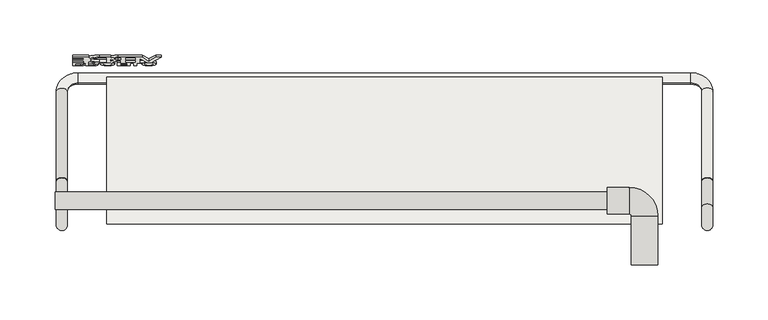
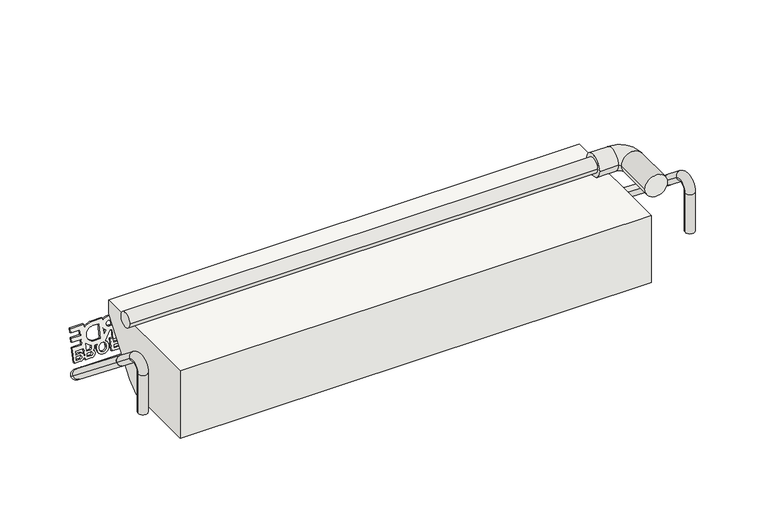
"""IFC4 building model written with IfcOpenShell, lengths in millimetres: covering geometry, panel VP Modulo prova ultima texture : panel VP Modulo prova ultima texture."""

from ifc_helpers import new_model, si_unit, point, frame, frame_2d, origin, place, context, project, spatial, polyline, circle_curve, ellipse_curve, trimmed, segment, composite_curve, outline, extrude, source, transform, mapped, element, save
from ifc_brep_helpers import plane_surface, cylinder_surface, revolved_surface, advanced_brep


def covering_8a4f5f23(model_context):
    return source(origin(), model_context, "Body", "SolidModel", [
        extrude(outline(composite_curve([segment(polyline([(34.7220757, 1e-07), (58.7996812, 1e-07)]), True, "CONTINUOUS"), segment(trimmed(circle_curve(frame_2d((65.0642789, 0.6025231)), 6.293506), [point((58.7996812, 1e-07))], [point((63.4156114, 6.6762463))], False, "CARTESIAN"), True, "CONTINUOUS"), segment(trimmed(circle_curve(frame_2d((65.6666707, 0.6823429)), 6.4026671), [point((63.4156114, 6.6762463))], [point((68.2653756, -5.1692277))], False, "CARTESIAN"), True, "CONTINUOUS"), segment(trimmed(circle_curve(frame_2d((65.2033193, 0.2002614)), 6.1812298), [point((68.2653756, -5.1692277))], [point((64.2093266, -5.9005239))], False, "CARTESIAN"), True, "CONTINUOUS"), segment(polyline([(64.2093266, -5.9005239), (66.3168223, -11.0476864), (75.8016954, -7.1641235), (76.862281, -9.7544045), (66.3136897, -14.0735049), (67.4636632, -16.8820993), (78.0122546, -12.5629989), (79.0728401, -15.1532799), (68.5242488, -19.4723803), (70.7348079, -24.8712557), (61.6931831, -28.5733316), (62.6270622, -30.8541559), (73.074875, -33.0832315)]), True, "CONTINUOUS"), segment(trimmed(circle_curve(frame_2d((79.2445531, -34.0648778)), 6.247284), [point((73.074875, -33.0832315))], [point((77.6263487, -28.0308102))], False, "CARTESIAN"), True, "CONTINUOUS"), segment(trimmed(circle_curve(frame_2d((79.877408, -34.0247135)), 6.4026671), [point((77.6263487, -28.0308102))], [point((82.4790998, -39.8749568))], False, "CARTESIAN"), True, "CONTINUOUS"), segment(trimmed(circle_curve(frame_2d((79.4067188, -34.4842118)), 6.2048092), [point((82.4790998, -39.8749568))], [point((77.0112197, -40.2079554))], False, "CARTESIAN"), True, "CONTINUOUS"), segment(polyline([(77.0112197, -40.2079554), (78.1993614, -43.1097684)]), True, "CONTINUOUS"), segment(trimmed(circle_curve(frame_2d((66.5130174, -47.6019204)), 12.5199867), [point((78.1993614, -43.1097684))], [point((78.4709528, -43.8927628))], False, "CARTESIAN"), True, "CONTINUOUS"), segment(polyline([(78.4709528, -43.8927628), (79.5384706, -43.4513167)]), True, "CONTINUOUS"), segment(trimmed(circle_curve(frame_2d((81.1236563, -46.5289178)), 3.4618554), [point((79.5384706, -43.4513167))], [point((83.2640668, -43.8080565))], False, "CARTESIAN"), True, "CONTINUOUS"), segment(trimmed(circle_curve(frame_2d((86.9930546, -44.5041075)), 3.7933939), [point((83.2640668, -43.8080565))], [point((90.5427255, -43.1663204))], False, "CARTESIAN"), True, "CONTINUOUS"), segment(polyline([(90.5427255, -43.1663204), (93.2835774, -49.8603364), (82.7349861, -54.1794367), (86.0955188, -62.3869066), (89.2825225, -61.0819941), (87.602256, -56.9782588)]), True, "CONTINUOUS"), segment(trimmed(circle_curve(frame_2d((91.2496312, -55.4763574)), 3.9444966), [point((87.602256, -56.9782588))], [point((87.6394877, -53.887044))], False, "CARTESIAN"), True, "CONTINUOUS"), segment(trimmed(circle_curve(frame_2d((91.0795376, -55.4029608)), 3.7592483), [point((87.6394877, -53.887044))], [point((89.8068057, -51.8657159))], False, "CARTESIAN"), True, "CONTINUOUS"), segment(trimmed(circle_curve(frame_2d((91.3826275, -55.3791794)), 3.8506675), [point((89.8068057, -51.8657159))], [point((94.9638437, -53.9640712))], False, "CARTESIAN"), True, "CONTINUOUS"), segment(polyline([(94.9638437, -53.9640712), (97.7046957, -60.6580873), (83.1186527, -66.6303144), (79.3291228, -57.3750995), (74.3249248, -59.4240587), (78.1144547, -68.6792736), (74.077003, -70.3324004), (70.2874731, -61.0771855), (65.283275, -63.1261447), (69.0728049, -72.3813597), (65.0353533, -74.0344865), (59.5536495, -60.6464545), (63.573194, -59.0006598)]), True, "CONTINUOUS"), segment(trimmed(circle_curve(frame_2d((67.4307018, -47.253167)), 12.364625), [point((63.573194, -59.0006598))], [point((55.9786182, -51.9151121))], False, "CARTESIAN"), True, "CONTINUOUS"), segment(polyline([(55.9786182, -51.9151121), (51.9745896, -42.1360244), (54.8949193, -40.940301)]), True, "CONTINUOUS"), segment(trimmed(circle_curve(frame_2d((56.8950264, -33.2916253)), 7.9058629), [point((54.8949193, -40.940301))], [point((49.6285766, -36.4063284))], False, "CARTESIAN"), True, "CONTINUOUS"), segment(polyline([(49.6285766, -36.4063284), (41.3068641, -16.0821087), (53.1289126, -4.45118), (36.5446028, -4.4511801), (34.7220757, 1e-07)]), True, "CONTINUOUS")], self_intersect=False), holes=[composite_curve([segment(polyline([(91.3698144, -60.2273564), (94.5568181, -58.9224439), (93.0429626, -55.2251362)]), True, "CONTINUOUS"), segment(trimmed(circle_curve(frame_2d((91.4494608, -55.8775924)), 1.7219023), [point((93.0429626, -55.2251362))], [point((89.8559589, -56.5300487))], True, "CARTESIAN"), True, "CONTINUOUS"), segment(polyline([(89.8559589, -56.5300487), (91.3698144, -60.2273564)]), True, "CONTINUOUS")], self_intersect=False), composite_curve([segment(polyline([(77.6536647, -53.2354382), (84.8614042, -50.2842432), (83.4804082, -46.9114198)]), True, "CONTINUOUS"), segment(trimmed(circle_curve(frame_2d((82.0055188, -47.9798171)), 1.8212006), [point((83.4804082, -46.9114198))], [point((81.4459172, -46.2467223))], True, "CARTESIAN"), True, "CONTINUOUS"), segment(polyline([(81.4459172, -46.2467223), (79.005401, -46.7813864)]), True, "CONTINUOUS"), segment(trimmed(circle_curve(frame_2d((66.800009, -47.5936694)), 12.2323913), [point((79.005401, -46.7813864))], [point((77.6536647, -53.2354382))], False, "CARTESIAN"), True, "CONTINUOUS")], self_intersect=False), composite_curve([segment(polyline([(80.0469884, -37.8463889), (81.818283, -37.1211357)]), True, "CONTINUOUS"), segment(trimmed(circle_curve(frame_2d((80.3714599, -33.822414)), 3.6020635), [point((81.818283, -37.1211357))], [point((79.0874461, -30.4569764))], True, "CARTESIAN"), True, "CONTINUOUS"), segment(polyline([(79.0874461, -30.4569764), (77.318043, -31.1814551)]), True, "CONTINUOUS"), segment(trimmed(circle_curve(frame_2d((78.7640582, -34.4805345)), 3.6020668), [point((77.318043, -31.1814551))], [point((80.0469884, -37.8463889))], True, "CARTESIAN"), True, "CONTINUOUS")], self_intersect=False), composite_curve([segment(polyline([(64.8767089, 4.25008), (63.1073057, 3.5256013)]), True, "CONTINUOUS"), segment(trimmed(circle_curve(frame_2d((64.5533209, 0.2265218)), 3.6020668), [point((63.1073057, 3.5256013))], [point((65.8362512, -3.1393324))], True, "CARTESIAN"), True, "CONTINUOUS"), segment(polyline([(65.8362512, -3.1393324), (67.6075457, -2.4140793)]), True, "CONTINUOUS"), segment(trimmed(circle_curve(frame_2d((66.1607226, 0.8846424)), 3.6020635), [point((67.6075457, -2.4140793))], [point((64.8767089, 4.25008))], True, "CARTESIAN"), True, "CONTINUOUS")], self_intersect=False), composite_curve([segment(polyline([(49.3862171, -14.3776131), (62.966359, -8.8172502), (61.7031824, -5.7321785), (62.543491, -5.3881158)]), True, "CONTINUOUS"), segment(trimmed(circle_curve(frame_2d((65.2914898, 0.489271)), 6.4880792), [point((62.543491, -5.3881158))], [point((60.2929855, -3.647168))], False, "CARTESIAN"), True, "CONTINUOUS"), segment(polyline([(60.2929855, -3.647168), (49.3862171, -14.3776131)]), True, "CONTINUOUS")], self_intersect=False), polyline([(47.598802, -19.9351411), (50.9593347, -28.1426109), (55.9635327, -26.0936517), (52.603, -17.8861818), (47.598802, -19.9351411)]), polyline([(60.0009844, -24.4405249), (65.0051824, -22.3915657), (61.6446497, -14.1840958), (56.6404517, -16.233055), (60.0009844, -24.4405249)]), composite_curve([segment(polyline([(52.6514048, -32.2754702), (53.692025, -34.8169896)]), True, "CONTINUOUS"), segment(trimmed(circle_curve(frame_2d((56.2265541, -33.8697215)), 2.7057631), [point((53.692025, -34.8169896))], [point((58.6823172, -32.7337722))], True, "CARTESIAN"), True, "CONTINUOUS"), segment(polyline([(58.6823172, -32.7337722), (57.6557066, -30.2264686), (52.6514048, -32.2754702)]), True, "CONTINUOUS")], self_intersect=False), composite_curve([segment(polyline([(62.001845, -38.030384), (66.4600603, -36.2049764), (63.0935891, -35.4866796)]), True, "CONTINUOUS"), segment(trimmed(circle_curve(frame_2d((53.8245829, -33.0146099)), 9.5929977), [point((63.0935891, -35.4866796))], [point((62.001845, -38.030384))], False, "CARTESIAN"), True, "CONTINUOUS")], self_intersect=False), composite_curve([segment(polyline([(57.7042151, -44.6157146), (60.0160697, -50.2619853)]), True, "CONTINUOUS"), segment(trimmed(circle_curve(frame_2d((67.1061304, -47.5504315)), 7.5908816), [point((60.0160697, -50.2619853))], [point((74.0619175, -44.51094))], True, "CARTESIAN"), True, "CONTINUOUS"), segment(polyline([(74.0619175, -44.51094), (71.7500629, -38.8646693), (57.7042151, -44.6157146)]), True, "CONTINUOUS")], self_intersect=False), composite_curve([segment(polyline([(86.9486962, -49.4296055), (90.1356999, -48.124693), (88.6218444, -44.4273853)]), True, "CONTINUOUS"), segment(trimmed(circle_curve(frame_2d((87.0283425, -45.0798416)), 1.7219023), [point((88.6218444, -44.4273853))], [point((85.4348407, -45.7322978))], True, "CARTESIAN"), True, "CONTINUOUS"), segment(polyline([(85.4348407, -45.7322978), (86.9486962, -49.4296055)]), True, "CONTINUOUS")], self_intersect=False)]), frame((-189.083657, 210.3688908, 529.4713363), z_axis=(0.0, -0.9769248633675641, 0.21358326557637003), x_axis=(-0.3789159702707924, -0.19765659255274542, -0.9040766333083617)), (0.0, 0.0, 1.0), 2.0),
        extrude(outline(polyline([(76.2116947, -23.2064962), (79.3986984, -21.9015837), (77.1881392, -16.5027082), (79.2754312, -15.6480706), (82.5465759, -23.6372271), (70.9744162, -28.3754256), (69.9138306, -25.7851445), (74.1244027, -24.0611338), (71.9138436, -18.6622584), (74.0011355, -17.8076207), (76.2116947, -23.2064962)])), frame((-189.083657, 210.3688908, 529.4713363), z_axis=(0.0, -0.9769248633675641, 0.21358326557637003), x_axis=(-0.3789159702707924, -0.19765659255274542, -0.9040766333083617)), (0.0, 0.0, 1.0), 2.0),
        advanced_brep(
        [(-298.2404059, 63.5015434, 593.1813202), (-298.2404059, 79.5015434, 593.1813202), (201.5404059, 63.5015434, 593.1813202), (201.5404059, 79.5015434, 593.1813202), (201.5404059, 59.5015434, 593.1813202), (201.5404059, 83.5015434, 593.1813202), (221.5404059, 59.5015434, 593.1813202), (221.5404059, 83.5015434, 593.1813202), (223.5404059, 57.5015434, 593.1813202), (247.5404059, 57.5015434, 593.1813202), (223.5404059, 13.5015434, 593.1813202), (247.5404059, 13.5015434, 593.1813202)],
        [
            (0, 1, circle_curve(frame((-298.2404059, 71.5015434, 593.1813202), z_axis=(-1.0, 0.0, 0.0), x_axis=(0.0, 1.0, 0.0)), 8.0)),
            (1, 0, circle_curve(frame((-298.2404059, 71.5015434, 593.1813202), z_axis=(-1.0, 0.0, 0.0), x_axis=(0.0, 1.0, 0.0)), 8.0)),
            (0, 2),
            (2, 3, circle_curve(frame((201.5404059, 71.5015434, 593.1813202), z_axis=(-1.0, 0.0, 0.0), x_axis=(0.0, 1.0, 0.0)), 8.0)),
            (3, 1),
            (3, 2, circle_curve(frame((201.5404059, 71.5015434, 593.1813202), z_axis=(-1.0, 0.0, 0.0), x_axis=(0.0, 1.0, 0.0)), 8.0)),
            (4, 5, circle_curve(frame((201.5404059, 71.5015434, 593.1813202), z_axis=(-1.0, 0.0, 0.0), x_axis=(0.0, 1.0, 0.0)), 12.0)),
            (5, 4, circle_curve(frame((201.5404059, 71.5015434, 593.1813202), z_axis=(-1.0, 0.0, 0.0), x_axis=(0.0, 1.0, 0.0)), 12.0)),
            (4, 6),
            (6, 7, circle_curve(frame((221.5404059, 71.5015434, 593.1813202), z_axis=(-1.0, 0.0, 0.0), x_axis=(0.0, 1.0, 0.0)), 12.0)),
            (7, 5),
            (7, 6, circle_curve(frame((221.5404059, 71.5015434, 593.1813202), z_axis=(-1.0, 0.0, 0.0), x_axis=(0.0, 1.0, 0.0)), 12.0)),
            (6, 8, circle_curve(frame((221.5404059, 57.5015434, 593.1813202), z_axis=(0.0, 0.0, -1.0), x_axis=(0.0, 1.0, 0.0)), 2.0)),
            (8, 9, circle_curve(frame((235.5404059, 57.5015434, 593.1813202), z_axis=(0.0, 1.0, 0.0), x_axis=(1.0, 0.0, 0.0)), 12.0)),
            (9, 7, circle_curve(frame((221.5404059, 57.5015434, 593.1813202), z_axis=(0.0, 0.0, 1.0), x_axis=(0.0, 1.0, 0.0)), 26.0)),
            (9, 8, circle_curve(frame((235.5404059, 57.5015434, 593.1813202), z_axis=(0.0, 1.0, 0.0), x_axis=(1.0, 0.0, 0.0)), 12.0)),
            (10, 11, circle_curve(frame((235.5404059, 13.5015434, 593.1813202), z_axis=(0.0, -1.0, 0.0), x_axis=(1.0, 0.0, 0.0)), 12.0)),
            (11, 10, circle_curve(frame((235.5404059, 13.5015434, 593.1813202), z_axis=(0.0, -1.0, 0.0), x_axis=(1.0, 0.0, 0.0)), 12.0)),
            (8, 10),
            (11, 9),
        ],
        [
            plane_surface(frame((-298.2404059, 63.5015434, 593.1813202), z_axis=(-1.0, 0.0, 0.0), x_axis=(0.0, 0.0, 1.0))),
            cylinder_surface(frame((-298.2404059, 71.5015434, 593.1813202), z_axis=(-1.0, 0.0, 0.0), x_axis=(0.0, 1.0, 0.0)), 8.0),
            plane_surface(frame((201.5404059, 63.5015434, 593.1813202), z_axis=(-1.0, 0.0, 0.0), x_axis=(0.0, 0.0, 1.0))),
            cylinder_surface(frame((201.5404059, 71.5015434, 593.1813202), z_axis=(-1.0, 0.0, 0.0), x_axis=(0.0, 1.0, 0.0)), 12.0),
            revolved_surface(trimmed(ellipse_curve(frame((221.5404059, 71.5015434, 593.1813202), z_axis=(-1.0, 0.0, 0.0), x_axis=(0.0, 1.0, 0.0)), 12.0, 12.0), [point((221.5404059, 59.5015434, 593.1813202))], [point((221.5404059, 83.5015434, 593.1813202))], True, "CARTESIAN"), (221.5404059, 57.5015434, 593.1813202), (0.0, 0.0, -1.0)),
            revolved_surface(trimmed(ellipse_curve(frame((221.5404059, 71.5015434, 593.1813202), z_axis=(-1.0, 0.0, 0.0), x_axis=(0.0, 1.0, 0.0)), 12.0, 12.0), [point((221.5404059, 83.5015434, 593.1813202))], [point((221.5404059, 59.5015434, 593.1813202))], True, "CARTESIAN"), (221.5404059, 57.5015434, 593.1813202), (0.0, 0.0, -1.0)),
            plane_surface(frame((227.5404059, 13.5015434, 593.1813202), z_axis=(0.0, -1.0, 0.0), x_axis=(0.0, 0.0, 1.0))),
            cylinder_surface(frame((235.5404059, 57.5015434, 593.1813202), z_axis=(0.0, 1.0, 0.0), x_axis=(1.0, 0.0, 0.0)), 12.0),
        ],
        [
            (0, [[1, 2]]),
            (1, [[-1, 3, 4, 5]]),
            (1, [[-2, -5, 6, -3]]),
            (2, [[7, 8], [-4, -6]]),
            (3, [[-7, 9, 10, 11]]),
            (3, [[-8, -11, 12, -9]]),
            (4, [[-10, 13, 14, 15]]),
            (5, [[-12, -15, 16, -13]]),
            (6, [[17, 18]]),
            (7, [[-14, 19, -18, 20]]),
            (7, [[-16, -20, -17, -19]]),
        ],
    ),
        advanced_brep(
        [(297.2404059, 89.2250572, 533.983262), (287.2404059, 89.2251428, 533.9833699), (297.2404059, 170.6491384, 469.463417), (287.2404059, 170.6492239, 469.463525), (277.2404059, 178.4869122, 463.2529982), (277.2404059, 186.324515, 457.0423635), (-277.2404059, 186.324515, 457.0423635), (-277.2404059, 178.4869122, 463.2529982), (-287.2404059, 170.6492239, 469.463525), (-297.2404059, 170.6491384, 469.463417), (-297.2404059, 89.2250494, 533.9832681), (-287.2404059, 89.225135, 533.9833761)],
        [
            (0, 1, circle_curve(frame((292.2404059, 89.2250572, 533.983262), z_axis=(0.0, -0.7837688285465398, 0.6210526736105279), x_axis=(1.0, 0.0, 0.0)), 5.0)),
            (1, 0, circle_curve(frame((292.2404059, 89.2250572, 533.983262), z_axis=(0.0, -0.7837688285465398, 0.6210526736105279), x_axis=(1.0, 0.0, 0.0)), 5.0)),
            (0, 2),
            (2, 3, circle_curve(frame((292.2404059, 170.6491384, 469.463417), z_axis=(0.0, -0.7837688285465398, 0.6210526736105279), x_axis=(1.0, 0.0, 0.0)), 5.0)),
            (3, 1),
            (3, 2, circle_curve(frame((292.2404059, 170.6491384, 469.463417), z_axis=(0.0, -0.7837688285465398, 0.6210526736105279), x_axis=(1.0, 0.0, 0.0)), 5.0)),
            (4, 3, circle_curve(frame((277.2404059, 170.6492239, 469.463525), z_axis=(0.0, -0.6210526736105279, -0.7837688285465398), x_axis=(1.0, 0.0, 0.0)), 10.0)),
            (2, 5, circle_curve(frame((277.2404059, 170.6491384, 469.463417), z_axis=(0.0, 0.6210526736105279, 0.7837688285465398), x_axis=(1.0, 0.0, 0.0)), 20.0)),
            (5, 4, circle_curve(frame((277.2404059, 182.4056708, 460.1476269), z_axis=(1.0, 0.0, 0.0), x_axis=(0.0, 0.7837688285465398, -0.6210526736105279)), 5.0)),
            (4, 5, circle_curve(frame((277.2404059, 182.4056708, 460.1476269), z_axis=(1.0, 0.0, 0.0), x_axis=(0.0, 0.7837688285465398, -0.6210526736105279)), 5.0)),
            (5, 6),
            (6, 7, circle_curve(frame((-277.2404059, 182.4056708, 460.1476269), z_axis=(1.0, 0.0, 0.0), x_axis=(0.0, 0.7837688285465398, -0.6210526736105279)), 5.0)),
            (7, 4),
            (7, 6, circle_curve(frame((-277.2404059, 182.4056708, 460.1476269), z_axis=(1.0, 0.0, 0.0), x_axis=(0.0, 0.7837688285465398, -0.6210526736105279)), 5.0)),
            (8, 7, circle_curve(frame((-277.2404059, 170.6492239, 469.463525), z_axis=(0.0, -0.6210526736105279, -0.7837688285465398), x_axis=(0.0, 0.7837688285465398, -0.6210526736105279)), 10.0)),
            (6, 9, circle_curve(frame((-277.2404059, 170.6491384, 469.463417), z_axis=(0.0, 0.6210526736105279, 0.7837688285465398), x_axis=(0.0, 0.7837688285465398, -0.6210526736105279)), 20.0)),
            (9, 8, circle_curve(frame((-292.2404059, 170.6491384, 469.463417), z_axis=(0.0, 0.7837688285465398, -0.6210526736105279), x_axis=(-1.0000000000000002, 0.0, 0.0)), 5.0)),
            (8, 9, circle_curve(frame((-292.2404059, 170.6491384, 469.463417), z_axis=(0.0, 0.7837688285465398, -0.6210526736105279), x_axis=(-1.0000000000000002, 0.0, 0.0)), 5.0)),
            (10, 11, circle_curve(frame((-292.2404059, 89.2250494, 533.9832681), z_axis=(0.0, -0.7837688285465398, 0.6210526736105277), x_axis=(-1.0, 0.0, 0.0)), 5.0)),
            (11, 10, circle_curve(frame((-292.2404059, 89.2250494, 533.9832681), z_axis=(0.0, -0.7837688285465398, 0.6210526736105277), x_axis=(-1.0, 0.0, 0.0)), 5.0)),
            (9, 10),
            (11, 8),
        ],
        [
            plane_surface(frame((287.2404059, 92.3304015, 537.9022082), z_axis=(0.0, -0.7837688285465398, 0.6210526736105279), x_axis=(0.0, -0.6210526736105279, -0.7837688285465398))),
            cylinder_surface(frame((292.2404059, 89.2250572, 533.983262), z_axis=(0.0, -0.7837688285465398, 0.6210526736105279), x_axis=(1.0, 0.0, 0.0)), 5.0),
            revolved_surface(trimmed(ellipse_curve(frame((292.2404059, 170.6491384, 469.463417), z_axis=(0.0, -0.7837688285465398, 0.6210526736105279), x_axis=(1.0, 0.0, 0.0)), 5.0, 5.0), [point((297.2404059, 170.6491384, 469.463417))], [point((287.2404059, 170.6492239, 469.463525))], True, "CARTESIAN"), (277.2404059, 173.7544827, 473.3823633), (0.0, 0.6210526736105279, 0.7837688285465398)),
            revolved_surface(trimmed(ellipse_curve(frame((292.2404059, 170.6491384, 469.463417), z_axis=(0.0, -0.7837688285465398, 0.6210526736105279), x_axis=(1.0, 0.0, 0.0)), 5.0, 5.0), [point((287.2404059, 170.6492239, 469.463525))], [point((297.2404059, 170.6491384, 469.463417))], True, "CARTESIAN"), (277.2404059, 173.7544827, 473.3823633), (0.0, 0.6210526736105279, 0.7837688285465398)),
            cylinder_surface(frame((277.2404059, 182.4056708, 460.1476269), z_axis=(1.0000000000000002, 0.0, 0.0), x_axis=(0.0, 0.7837688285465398, -0.6210526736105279)), 5.0),
            revolved_surface(trimmed(ellipse_curve(frame((-277.2404059, 182.4056708, 460.1476269), z_axis=(1.0000000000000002, 0.0, 0.0), x_axis=(0.0, 0.7837688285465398, -0.6210526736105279)), 5.0, 5.0), [point((-277.2404059, 186.324515, 457.0423635))], [point((-277.2404059, 178.4869122, 463.2529982))], True, "CARTESIAN"), (-277.2404059, 173.7544827, 473.3823633), (0.0, 0.6210526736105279, 0.7837688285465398)),
            revolved_surface(trimmed(ellipse_curve(frame((-277.2404059, 182.4056708, 460.1476269), z_axis=(1.0000000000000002, 0.0, 0.0), x_axis=(0.0, 0.7837688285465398, -0.6210526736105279)), 5.0, 5.0), [point((-277.2404059, 178.4869122, 463.2529982))], [point((-277.2404059, 186.324515, 457.0423635))], True, "CARTESIAN"), (-277.2404059, 173.7544827, 473.3823633), (0.0, 0.6210526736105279, 0.7837688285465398)),
            plane_surface(frame((-287.2404059, 92.3303937, 537.9022144), z_axis=(0.0, -0.7837688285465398, 0.6210526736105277), x_axis=(0.0, -0.6210526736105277, -0.7837688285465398))),
            cylinder_surface(frame((-292.2404059, 170.6491384, 469.463417), z_axis=(0.0, 0.7837688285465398, -0.6210526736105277), x_axis=(-1.0, 0.0, 0.0)), 5.0),
        ],
        [
            (0, [[1, 2]]),
            (1, [[-1, 3, 4, 5]]),
            (1, [[-2, -5, 6, -3]]),
            (2, [[7, -4, 8, 9]]),
            (3, [[-8, -6, -7, 10]]),
            (4, [[-9, 11, 12, 13]]),
            (4, [[-10, -13, 14, -11]]),
            (5, [[15, -12, 16, 17]]),
            (6, [[-16, -14, -15, 18]]),
            (7, [[19, 20]]),
            (8, [[-17, 21, -20, 22]]),
            (8, [[-18, -22, -19, -21]]),
        ],
    ),
        advanced_brep(
        [(-287.2404059, 89.225135, 533.9833761), (-297.2404059, 89.225135, 533.9833761), (-297.2404059, 65.7120701, 552.6149563), (-287.2404059, 65.7120701, 552.6149563), (-287.2404059, 49.5015434, 544.777268), (-297.2404059, 49.5015434, 544.777268), (-287.2404059, 49.5015434, 500.4751228), (-297.2404059, 49.5015434, 500.4751228)],
        [
            (0, 1, circle_curve(frame((-292.2404059, 89.225135, 533.9833761), z_axis=(0.0, 0.7837688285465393, -0.6210526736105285), x_axis=(-1.0, 0.0, 0.0)), 5.0)),
            (1, 0, circle_curve(frame((-292.2404059, 89.225135, 533.9833761), z_axis=(0.0, 0.7837688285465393, -0.6210526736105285), x_axis=(-1.0, 0.0, 0.0)), 5.0)),
            (1, 2),
            (2, 3, circle_curve(frame((-292.2404059, 65.7120701, 552.6149563), z_axis=(0.0, 0.7837688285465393, -0.6210526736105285), x_axis=(-1.0, 0.0, 0.0)), 5.0)),
            (3, 0),
            (3, 2, circle_curve(frame((-292.2404059, 65.7120701, 552.6149563), z_axis=(0.0, 0.7837688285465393, -0.6210526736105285), x_axis=(-1.0, 0.0, 0.0)), 5.0)),
            (4, 3, circle_curve(frame((-287.2404059, 59.5015434, 544.777268), z_axis=(-1.0, 0.0, 0.0), x_axis=(0.0, 0.6210526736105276, 0.78376882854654)), 10.0)),
            (2, 5, circle_curve(frame((-297.2404059, 59.5015434, 544.777268), z_axis=(1.0, 0.0, 0.0), x_axis=(0.0, 0.6210526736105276, 0.78376882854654)), 10.0)),
            (5, 4, circle_curve(frame((-292.2404059, 49.5015434, 544.777268), z_axis=(0.0, 0.0, 1.0), x_axis=(-1.0, 0.0, 0.0)), 5.0)),
            (4, 5, circle_curve(frame((-292.2404059, 49.5015434, 544.777268), z_axis=(0.0, 0.0, 1.0), x_axis=(-1.0, 0.0, 0.0)), 5.0)),
            (6, 7, circle_curve(frame((-292.2404059, 49.5015434, 500.4751228), z_axis=(0.0, 0.0, -1.0), x_axis=(-1.0, 0.0, 0.0)), 5.0)),
            (7, 6, circle_curve(frame((-292.2404059, 49.5015434, 500.4751228), z_axis=(0.0, 0.0, -1.0), x_axis=(-1.0, 0.0, 0.0)), 5.0)),
            (5, 7),
            (6, 4),
        ],
        [
            plane_surface(frame((-287.2404059, 89.225135, 533.9833761), z_axis=(0.0, 0.7837688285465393, -0.6210526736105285), x_axis=(-1.0, 0.0, 0.0))),
            cylinder_surface(frame((-292.2404059, 89.225135, 533.9833761), z_axis=(0.0, 0.7837688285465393, -0.6210526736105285), x_axis=(-1.0, 0.0, 0.0)), 5.0),
            revolved_surface(trimmed(ellipse_curve(frame((-292.2404059, 65.7120701, 552.6149563), z_axis=(0.0, 0.78376882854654, -0.6210526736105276), x_axis=(-1.0, 0.0, 0.0)), 5.0, 5.0), [point((-297.2404059, 65.7120701, 552.6149563))], [point((-287.2404059, 65.7120701, 552.6149563))], True, "CARTESIAN"), (-287.2404059, 59.5015434, 544.777268), (1.0, 0.0, 0.0)),
            revolved_surface(trimmed(ellipse_curve(frame((-292.2404059, 65.7120701, 552.6149563), z_axis=(0.0, 0.78376882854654, -0.6210526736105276), x_axis=(-1.0, 0.0, 0.0)), 5.0, 5.0), [point((-287.2404059, 65.7120701, 552.6149563))], [point((-297.2404059, 65.7120701, 552.6149563))], True, "CARTESIAN"), (-287.2404059, 59.5015434, 544.777268), (1.0, 0.0, 0.0)),
            plane_surface(frame((-287.2404059, 49.5015434, 500.4751228), z_axis=(0.0, 0.0, -1.0), x_axis=(-1.0, 0.0, 0.0))),
            cylinder_surface(frame((-292.2404059, 49.5015434, 544.777268), z_axis=(0.0, 0.0, 1.0), x_axis=(-1.0, 0.0, 0.0)), 5.0),
        ],
        [
            (0, [[1, 2]]),
            (1, [[-2, 3, 4, 5]]),
            (1, [[-1, -5, 6, -3]]),
            (2, [[7, -4, 8, 9]]),
            (3, [[-8, -6, -7, 10]]),
            (4, [[11, 12]]),
            (5, [[-9, 13, -11, 14]]),
            (5, [[-10, -14, -12, -13]]),
        ],
    ),
        advanced_brep(
        [(287.2404059, 89.2251242, 533.9833465), (297.2404059, 89.2251242, 533.9833465), (287.2404059, 65.7120779, 552.6149501), (297.2404059, 65.7120779, 552.6149501), (297.2404059, 49.5015434, 544.777268), (287.2404059, 49.5015434, 544.777268), (287.2404059, 49.5015434, 500.4751228), (297.2404059, 49.5015434, 500.4751228)],
        [
            (0, 1, circle_curve(frame((292.2404059, 89.2251242, 533.9833465), z_axis=(0.0, 0.7837682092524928, -0.621053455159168), x_axis=(1.0, 0.0, 0.0)), 5.0)),
            (1, 0, circle_curve(frame((292.2404059, 89.2251242, 533.9833465), z_axis=(0.0, 0.7837682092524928, -0.621053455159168), x_axis=(1.0, 0.0, 0.0)), 5.0)),
            (0, 2),
            (2, 3, circle_curve(frame((292.2404059, 65.7120779, 552.6149501), z_axis=(0.0, 0.7837682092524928, -0.621053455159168), x_axis=(1.0, 0.0, 0.0)), 5.0)),
            (3, 1),
            (3, 2, circle_curve(frame((292.2404059, 65.7120779, 552.6149501), z_axis=(0.0, 0.7837682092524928, -0.621053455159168), x_axis=(1.0, 0.0, 0.0)), 5.0)),
            (4, 3, circle_curve(frame((297.2404059, 59.5015434, 544.777268), z_axis=(-1.0, 0.0, 0.0), x_axis=(0.0, 0.6210534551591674, 0.7837682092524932)), 10.0)),
            (2, 5, circle_curve(frame((287.2404059, 59.5015434, 544.777268), z_axis=(1.0, 0.0, 0.0), x_axis=(0.0, 0.6210534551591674, 0.7837682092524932)), 10.0)),
            (5, 4, circle_curve(frame((292.2404059, 49.5015434, 544.777268), z_axis=(0.0, 0.0, 1.0), x_axis=(1.0, 0.0, 0.0)), 5.0)),
            (4, 5, circle_curve(frame((292.2404059, 49.5015434, 544.777268), z_axis=(0.0, 0.0, 1.0), x_axis=(1.0, 0.0, 0.0)), 5.0)),
            (6, 7, circle_curve(frame((292.2404059, 49.5015434, 500.4751228), z_axis=(0.0, 0.0, -1.0), x_axis=(1.0, 0.0, 0.0)), 5.0)),
            (7, 6, circle_curve(frame((292.2404059, 49.5015434, 500.4751228), z_axis=(0.0, 0.0, -1.0), x_axis=(1.0, 0.0, 0.0)), 5.0)),
            (5, 6),
            (7, 4),
        ],
        [
            plane_surface(frame((287.2404059, 89.2251242, 533.9833465), z_axis=(0.0, 0.7837682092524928, -0.621053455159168), x_axis=(1.0, 0.0, 0.0))),
            cylinder_surface(frame((292.2404059, 89.2251242, 533.9833465), z_axis=(0.0, 0.7837682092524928, -0.621053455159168), x_axis=(1.0, 0.0, 0.0)), 5.0),
            revolved_surface(trimmed(ellipse_curve(frame((292.2404059, 65.7120779, 552.6149501), z_axis=(0.0, 0.7837682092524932, -0.6210534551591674), x_axis=(1.0, 0.0, 0.0)), 5.0, 5.0), [point((287.2404059, 65.7120779, 552.6149501))], [point((297.2404059, 65.7120779, 552.6149501))], True, "CARTESIAN"), (287.2404059, 59.5015434, 544.777268), (1.0, 0.0, 0.0)),
            revolved_surface(trimmed(ellipse_curve(frame((292.2404059, 65.7120779, 552.6149501), z_axis=(0.0, 0.7837682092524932, -0.6210534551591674), x_axis=(1.0, 0.0, 0.0)), 5.0, 5.0), [point((297.2404059, 65.7120779, 552.6149501))], [point((287.2404059, 65.7120779, 552.6149501))], True, "CARTESIAN"), (287.2404059, 59.5015434, 544.777268), (1.0, 0.0, 0.0)),
            plane_surface(frame((287.2404059, 49.5015434, 500.4751228), z_axis=(0.0, 0.0, -1.0), x_axis=(1.0, 0.0, 0.0))),
            cylinder_surface(frame((292.2404059, 49.5015434, 544.777268), z_axis=(0.0, 0.0, 1.0), x_axis=(1.0, 0.0, 0.0)), 5.0),
        ],
        [
            (0, [[1, 2]]),
            (1, [[-1, 3, 4, 5]]),
            (1, [[-2, -5, 6, -3]]),
            (2, [[7, -4, 8, 9]]),
            (3, [[-8, -6, -7, 10]]),
            (4, [[11, 12]]),
            (5, [[-9, 13, -12, 14]]),
            (5, [[-10, -14, -11, -13]]),
        ],
    ),
        extrude(outline(polyline([(132.1625373, 455.5216565), (50.5015434, 455.5216565), (50.5015434, 531.5216565), (183.4941844, 531.5216565), (183.4941844, 515.8549334), (143.8388149, 465.8098381), (132.1625373, 455.5216565)])), frame((-251.5404059, 0.0, 0.0), z_axis=(1.0, 0.0, 0.0), x_axis=(0.0, 1.0, 0.0)), (0.0, 0.0, 1.0), 503.0808119),
    ])


if __name__ == "__main__":
    model = new_model("IFC4")
    model_context = context("Model", 3, world=origin())
    ifc_project = project(units=[si_unit("LENGTHUNIT", "METRE", prefix="MILLI")], contexts=[model_context])
    site = spatial("IfcSite", under=ifc_project)
    building = spatial("IfcBuilding", under=site)
    placement = place(None, origin())
    covering_shape = covering_8a4f5f23(model_context)
    element("IfcCovering", 1, ObjectType="panel VP Modulo prova ultima texture : panel VP Modulo prova ultima texture", at=placement, inside=building, context=model_context, shape_type="MappedRepresentation", body=[
        mapped(covering_shape, transform((0.0, 0.0, 0.0), x_axis=(1.0, 0.0, 0.0), y_axis=(0.0, 1.0, 0.0), z_axis=(0.0, 0.0, 1.0))),
    ])
    save(model, "model.ifc")
